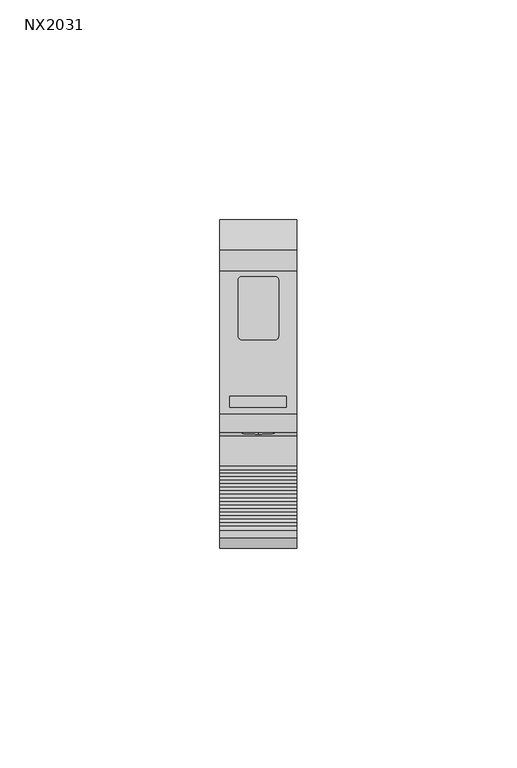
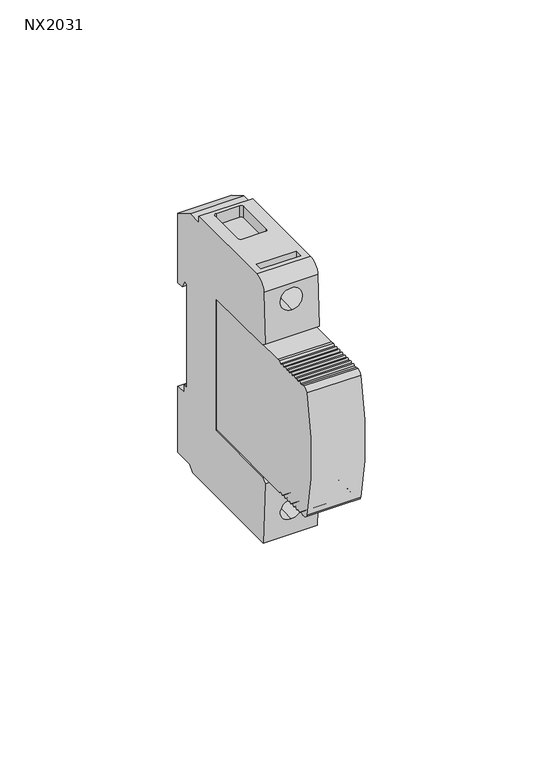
"""IFC4 building model written with IfcOpenShell, lengths in millimetres: proxy geometry, КНС_УЗИП_классII_DKC : NX2031."""

from ifc_helpers import new_model, si_unit, point, frame, frame_2d, origin, place, context, project, spatial, polyline, circle_curve, ellipse_curve, trimmed, segment, composite_curve, outline, extrude, source, transform, mapped, element, save
from ifc_brep_helpers import plane_surface, cylinder_surface, revolved_surface, advanced_brep


def nx2031_2e469d20(model_context):
    return source(origin(), model_context, "Body", "SolidModel", [
        advanced_brep(
        [(52.5, 1.2, 17.438194), (52.5, 2.7207259, 14.938194), (52.5, 5.0, 14.938194), (52.5, 5.0, 38.7044771), (52.5, -1.7972569, 42.6288752), (52.5, -6.7, 42.5860896), (52.5, -6.6806922, 44.688194), (52.5, -39.1559657, 44.688194), (52.5, -43.2612234, 40.8404952), (52.5, -44.1501875, 23.5687496), (52.5, -42.5975423, 22.4685618), (52.5, -16.1999972, 22.2381939), (52.5, -16.1999972, -22.861806), (52.5, -42.5975423, -23.0921739), (52.5, -44.149783, -24.192075), (52.5, -43.0654073, -45.2646007), (52.5, -3.2721098, -45.2646007), (52.5, -1.6937526, -43.2533905), (52.5, 5.0, -43.311806), (52.5, 5.0, -20.561806), (52.5, 1.5, -20.561806), (52.5, 1.5, -18.061806), (52.5, 0.0, -18.061806), (52.5, 0.0, 17.438194), (35.0, 1.2, 17.438194), (35.0, 0.0, 17.438194), (35.0, 0.0, -18.061806), (35.0, 1.5, -18.061806), (35.0, 1.5, -20.561806), (35.0, 5.0, -20.561806), (35.0, 5.0, -43.311806), (35.0, -1.6937526, -43.2533905), (35.0, -3.2721098, -45.2646007), (35.0, -43.0654073, -45.2646007), (35.0, -44.149783, -24.192075), (35.0, -42.5975423, -23.0921739), (35.0, -16.1999972, -22.861806), (35.0, -16.1999972, 22.2381939), (35.0, -42.5975423, 22.4685618), (35.0, -44.1501875, 23.5687496), (35.0, -43.2612234, 40.8404952), (35.0, -39.1559657, 44.688194), (35.0, -6.6806922, 44.688194), (35.0, -6.7, 42.5860896), (35.0, -1.7972569, 42.6288752), (35.0, 5.0, 38.7044771), (35.0, 5.0, 14.938194), (35.0, 2.7207259, 14.938194), (37.251655, -35.102599, 44.688194), (50.147402, -35.102599, 44.688194), (50.1473955, -37.6473987, 44.688194), (37.2596285, -37.6473987, 44.688194), (39.1464467, -8.7059631, 44.688194), (39.9559631, -7.8964466, 44.688194), (47.543988, -7.8964466, 44.688194), (48.3535534, -8.9059631, 44.688194), (48.3535534, -21.4940369, 44.688194), (47.5440369, -22.3035534, 44.688194), (39.9559631, -22.3035534, 44.688194), (39.1464467, -21.2943613, 44.688194), (43.75, -43.7122623, 32.0772292), (43.75, -43.3399564, 39.3107864), (43.75, -43.3425137, -39.8796286), (43.75, -43.7053358, -32.8289577), (50.147402, -35.102599, 40.688194), (37.251655, -35.102599, 40.688194), (37.2596285, -37.6473987, 40.688194), (50.1473955, -37.6473987, 40.688194), (43.75, -32.0563306, 32.6770343), (43.75, -32.241464, 36.2747068), (43.75, -32.4265974, 39.8723793), (43.75, -28.3623348, -39.1087603), (43.75, -28.5437458, -35.5834249), (43.75, -28.7251568, -32.0580894), (39.9559631, -7.8964466, 40.688194), (39.1464467, -8.7059631, 40.688194), (39.1464467, -21.2943613, 40.688194), (39.9559631, -22.3035534, 40.688194), (47.5440369, -22.3035534, 40.688194), (48.3535534, -21.4940369, 40.688194), (48.3535534, -8.9059631, 40.688194), (47.543988, -7.8964466, 40.688194)],
        [
            (0, 1),
            (1, 2),
            (2, 3),
            (3, 4),
            (4, 5),
            (5, 6),
            (6, 7),
            (7, 8, circle_curve(frame((52.5, -39.1559657, 40.574316), z_axis=(1.0, 0.0, 0.0), x_axis=(0.0, -1.0, 0.0)), 4.113878)),
            (8, 9),
            (9, 10),
            (10, 11),
            (11, 12),
            (12, 13),
            (13, 14),
            (14, 15),
            (15, 16),
            (16, 17),
            (17, 18),
            (18, 19),
            (19, 20),
            (20, 21),
            (21, 22),
            (22, 23),
            (23, 0),
            (24, 25),
            (25, 26),
            (26, 27),
            (27, 28),
            (28, 29),
            (29, 30),
            (30, 31),
            (31, 32),
            (32, 33),
            (33, 34),
            (34, 35),
            (35, 36),
            (36, 37),
            (37, 38),
            (38, 39),
            (39, 40),
            (40, 41, circle_curve(frame((35.0, -39.1559657, 40.574316), z_axis=(-1.0, 0.0, 0.0), x_axis=(0.0, -1.0, 0.0)), 4.113878)),
            (41, 42),
            (42, 43),
            (43, 44),
            (44, 45),
            (45, 46),
            (46, 47),
            (47, 24),
            (0, 24),
            (47, 1),
            (46, 2),
            (45, 3),
            (44, 4),
            (43, 5),
            (42, 6),
            (41, 7),
            (48, 49),
            (49, 50),
            (50, 51),
            (51, 48),
            (52, 53, circle_curve(frame((39.9559631, -8.7059631, 44.688194), z_axis=(0.0, 0.0, -1.0), x_axis=(1.0, 0.0, 0.0)), 0.8095165)),
            (53, 54),
            (54, 55, circle_curve(frame((47.543988, -8.7258138, 44.688194), z_axis=(0.0, 0.0, -1.0), x_axis=(1.0, 0.0, 0.0)), 0.8293672)),
            (55, 56),
            (56, 57, circle_curve(frame((47.5440369, -21.4940369, 44.688194), z_axis=(0.0, 0.0, -1.0), x_axis=(1.0, 0.0, 0.0)), 0.8095165)),
            (57, 58),
            (58, 59, circle_curve(frame((40.1802649, -21.2943613, 44.688194), z_axis=(0.0, 0.0, -1.0), x_axis=(1.0, 0.0, 0.0)), 1.0338181)),
            (59, 52),
            (40, 8),
            (39, 9),
            (60, 61, ellipse_curve(frame((43.75, -43.5261093, 35.6940078), z_axis=(0.0, 0.9986780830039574, -0.05140123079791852), x_axis=(0.0, -0.0514012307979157, -0.9986780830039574)), 3.621566, 3.6024328)),
            (61, 60, ellipse_curve(frame((43.75, -43.5261093, 35.6940078), z_axis=(0.0, 0.9986780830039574, -0.05140123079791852), x_axis=(0.0, -0.0514012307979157, -0.9986780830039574)), 3.621566, 3.6024328)),
            (38, 10),
            (37, 11),
            (36, 12),
            (35, 13),
            (34, 14),
            (33, 15),
            (62, 63, circle_curve(frame((43.75, -43.5239247, -36.3542932), z_axis=(0.0, 0.9986785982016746, 0.051391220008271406), x_axis=(0.0, -0.05139122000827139, 0.9986785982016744)), 3.53)),
            (63, 62, circle_curve(frame((43.75, -43.5239247, -36.3542932), z_axis=(0.0, 0.9986785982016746, 0.051391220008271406), x_axis=(0.0, -0.05139122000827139, 0.9986785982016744)), 3.53)),
            (32, 16),
            (31, 17),
            (30, 18),
            (29, 19),
            (28, 20),
            (27, 21),
            (26, 22),
            (25, 23),
            (64, 65),
            (65, 66),
            (66, 67),
            (67, 64),
            (64, 49),
            (48, 65),
            (51, 66),
            (50, 67),
            (68, 69),
            (69, 70),
            (70, 68, circle_curve(frame((43.75, -32.241464, 36.2747068), z_axis=(0.0, -0.9986785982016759, -0.051391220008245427), x_axis=(0.0, -0.05139122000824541, 0.9986785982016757)), 3.6024328)),
            (68, 70, circle_curve(frame((43.75, -32.241464, 36.2747068), z_axis=(0.0, -0.9986785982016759, -0.051391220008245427), x_axis=(0.0, -0.05139122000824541, 0.9986785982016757)), 3.6024328)),
            (70, 61),
            (60, 68),
            (71, 72),
            (72, 73),
            (73, 71, circle_curve(frame((43.75, -28.5437458, -35.5834249), z_axis=(0.0, -0.9986785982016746, -0.051391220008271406), x_axis=(0.0, -0.05139122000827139, 0.9986785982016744)), 3.53)),
            (71, 73, circle_curve(frame((43.75, -28.5437458, -35.5834249), z_axis=(0.0, -0.9986785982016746, -0.051391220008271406), x_axis=(0.0, -0.05139122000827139, 0.9986785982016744)), 3.53)),
            (73, 63),
            (62, 71),
            (74, 75, circle_curve(frame((39.9559631, -8.7059631, 40.688194), z_axis=(0.0, 0.0, 1.0), x_axis=(1.0, 0.0, 0.0)), 0.8095165)),
            (75, 76),
            (76, 77, circle_curve(frame((40.1802649, -21.2943613, 40.688194), z_axis=(0.0, 0.0, 1.0), x_axis=(1.0, 0.0, 0.0)), 1.0338181)),
            (77, 78),
            (78, 79, circle_curve(frame((47.5440369, -21.4940369, 40.688194), z_axis=(0.0, 0.0, 1.0), x_axis=(1.0, 0.0, 0.0)), 0.8095165)),
            (79, 80),
            (80, 81, circle_curve(frame((47.543988, -8.7258138, 40.688194), z_axis=(0.0, 0.0, 1.0), x_axis=(1.0, 0.0, 0.0)), 0.8293672)),
            (81, 74),
            (74, 53),
            (52, 75),
            (59, 76),
            (58, 77),
            (57, 78),
            (56, 79),
            (55, 80),
            (54, 81),
        ],
        [
            plane_surface(frame((52.5, 1.2, 17.438194), z_axis=(1.0, 0.0, 0.0), x_axis=(0.0, 0.5196942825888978, -0.8543523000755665))),
            plane_surface(frame((35.0, 1.2, 17.438194), z_axis=(-1.0, 0.0, 0.0), x_axis=(0.0, -0.5196942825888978, 0.8543523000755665))),
            plane_surface(frame((52.5, 1.2, 17.438194), z_axis=(0.0, -0.8543523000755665, -0.5196942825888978), x_axis=(-1.0, 0.0, 0.0))),
            plane_surface(frame((52.5, 2.7207259, 14.938194), z_axis=(0.0, 0.0, -1.0), x_axis=(-1.0, 0.0, 0.0))),
            plane_surface(frame((52.5, 5.0, 14.938194), z_axis=(0.0, 1.0, 0.0), x_axis=(-1.0, 0.0, 0.0))),
            plane_surface(frame((52.5, 5.0, 38.7044771), z_axis=(0.0, 0.49999999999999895, 0.8660254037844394), x_axis=(-1.0, 0.0, 0.0))),
            plane_surface(frame((52.5, -1.7972569, 42.6288752), z_axis=(0.0, -0.008726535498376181, 0.9999619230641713), x_axis=(-1.0, 0.0, 0.0))),
            plane_surface(frame((52.5, -6.7, 42.5860896), z_axis=(0.0, 0.9999578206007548, -0.009184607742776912), x_axis=(-1.0, 0.0, 0.0))),
            plane_surface(frame((52.5, -6.6806922, 44.688194), z_axis=(0.0, 0.0, 1.0), x_axis=(-1.0, 0.0, 0.0))),
            cylinder_surface(frame((35.0, -39.1559657, 40.574316), z_axis=(1.0, 0.0, 0.0), x_axis=(0.0, -1.0, 0.0)), 4.113878),
            plane_surface(frame((52.5, -43.2612234, 40.8404952), z_axis=(0.0, -0.9986780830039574, 0.05140123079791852), x_axis=(-1.0, 0.0, 0.0))),
            plane_surface(frame((52.5, -44.1501875, 23.5687496), z_axis=(0.0, -0.5781564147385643, -0.8159259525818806), x_axis=(-1.0, 0.0, 0.0))),
            plane_surface(frame((52.5, -42.5975423, 22.4685618), z_axis=(0.0, -0.00872653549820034, -0.9999619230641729), x_axis=(-1.0, 0.0, 0.0))),
            plane_surface(frame((52.5, -16.1999972, 22.2381939), z_axis=(0.0, -1.0, 0.0), x_axis=(-1.0, 0.0, 0.0))),
            plane_surface(frame((52.5, -16.1999972, -22.861806), z_axis=(0.0, -0.008726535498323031, 0.9999619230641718), x_axis=(-1.0, 0.0, 0.0))),
            plane_surface(frame((52.5, -42.5975423, -23.0921739), z_axis=(0.0, -0.5781564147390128, 0.8159259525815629), x_axis=(-1.0, 0.0, 0.0))),
            plane_surface(frame((52.5, -44.149783, -24.192075), z_axis=(0.0, -0.9986785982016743, -0.05139122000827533), x_axis=(-1.0, 0.0, 0.0))),
            plane_surface(frame((52.5, -43.0654073, -45.2646007), z_axis=(0.0, 0.0, -1.0), x_axis=(-1.0, 0.0, 0.0))),
            plane_surface(frame((52.5, -3.2721098, -45.2646007), z_axis=(0.0, 0.7866753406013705, -0.6173669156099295), x_axis=(-1.0, 0.0, 0.0))),
            plane_surface(frame((52.5, -1.6937526, -43.2533905), z_axis=(0.0, -0.008726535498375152, -0.9999619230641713), x_axis=(-1.0, 0.0, 0.0))),
            plane_surface(frame((52.5, 5.0, -43.311806), z_axis=(0.0, 1.0, 0.0), x_axis=(-1.0, 0.0, 0.0))),
            plane_surface(frame((52.5, 5.0, -20.561806), z_axis=(0.0, 0.0, 1.0), x_axis=(-1.0, 0.0, 0.0))),
            plane_surface(frame((52.5, 1.5, -20.561806), z_axis=(0.0, 1.0, 0.0), x_axis=(-1.0, 0.0, 0.0))),
            plane_surface(frame((52.5, 1.5, -18.061806), z_axis=(0.0, 0.0, 1.0), x_axis=(-1.0, 0.0, 0.0))),
            plane_surface(frame((52.5, 0.0, -18.061806), z_axis=(0.0, 1.0, 0.0), x_axis=(-1.0, 0.0, 0.0))),
            plane_surface(frame((52.5, 0.0, 17.438194), z_axis=(0.0, 0.0, -1.0), x_axis=(-1.0, 0.0, 0.0))),
            plane_surface(frame((37.5525837, -35.102599, 40.688194), z_axis=(0.0, 0.0, 1.0), x_axis=(1.0, 0.0, 0.0))),
            plane_surface(frame((50.147402, -35.102599, 51.9501742), z_axis=(0.0, -1.0, 0.0), x_axis=(0.0, 0.0, -1.0))),
            plane_surface(frame((37.251655, -35.102599, 51.9501742), z_axis=(0.9999950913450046, 0.003133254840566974, 0.0), x_axis=(0.0, 0.0, -1.0))),
            plane_surface(frame((37.2596285, -37.6473987, 51.9501742), z_axis=(0.0, 1.0, 0.0), x_axis=(0.0, 0.0, -1.0))),
            plane_surface(frame((50.1473955, -37.6473987, 51.9501742), z_axis=(-0.9999999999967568, 2.546850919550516e-06, 0.0), x_axis=(0.0, 0.0, -1.0))),
            plane_surface(frame((43.75, -32.241464, 36.2747068), z_axis=(0.0, -0.9986785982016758, -0.05139122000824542), x_axis=(0.0, -0.05139122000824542, 0.9986785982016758))),
            revolved_surface(polyline([(43.75, -44.082529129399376, 39.27257420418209), (43.75, -32.42659740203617, 39.872379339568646)]), (43.75, -32.241464, 36.2747068), (0.0, -0.9986785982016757, -0.05139122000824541)),
            plane_surface(frame((43.75, -28.5437458, -35.5834249), z_axis=(0.0, -0.9986785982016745, -0.0513912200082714), x_axis=(0.0, -0.0513912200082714, 0.9986785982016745))),
            revolved_surface(polyline([(43.75, -43.70533579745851, -32.828957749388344), (43.75, -28.725156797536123, -32.058089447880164)]), (43.75, -28.5437458, -35.5834249), (0.0, -0.9986785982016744, -0.05139122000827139)),
            plane_surface(frame((40.7654796, -8.7059631, 40.688194), z_axis=(0.0, 0.0, 1.0), x_axis=(0.0, -1.0, 0.0))),
            revolved_surface(polyline([(40.7654796, -8.7059631, 44.688194), (40.7654796, -8.7059631, 40.688194)]), (39.9559631, -8.7059631, 40.688194), (0.0, 0.0, 1.0)),
            plane_surface(frame((39.1464467, -8.7059631, 44.688194), z_axis=(1.0, 0.0, 0.0), x_axis=(0.0, 0.0, -1.0))),
            revolved_surface(polyline([(41.214082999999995, -21.2943613, 44.688194), (41.214082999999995, -21.2943613, 40.688194)]), (40.1802649, -21.2943613, 40.688194), (0.0, 0.0, 1.0)),
            plane_surface(frame((39.9559631, -22.3035534, 44.688194), z_axis=(0.0, 1.0, 0.0), x_axis=(0.0, 0.0, -1.0))),
            revolved_surface(polyline([(48.3535534, -21.4940369, 44.688194), (48.3535534, -21.4940369, 40.688194)]), (47.5440369, -21.4940369, 40.688194), (0.0, 0.0, 1.0)),
            plane_surface(frame((48.3535534, -21.4940369, 44.688194), z_axis=(-1.0, 0.0, 0.0), x_axis=(0.0, 0.0, -1.0))),
            revolved_surface(polyline([(48.3733552, -8.7258138, 44.688194), (48.3733552, -8.7258138, 40.688194)]), (47.543988, -8.7258138, 40.688194), (0.0, 0.0, 1.0)),
            plane_surface(frame((47.543988, -7.8964466, 44.688194), z_axis=(1.8937241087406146e-10, -1.0, 0.0), x_axis=(0.0, 0.0, -1.0))),
        ],
        [
            (0, [[1, 2, 3, 4, 5, 6, 7, 8, 9, 10, 11, 12, 13, 14, 15, 16, 17, 18, 19, 20, 21, 22, 23, 24]]),
            (1, [[25, 26, 27, 28, 29, 30, 31, 32, 33, 34, 35, 36, 37, 38, 39, 40, 41, 42, 43, 44, 45, 46, 47, 48]]),
            (2, [[-1, 49, -48, 50]]),
            (3, [[-2, -50, -47, 51]]),
            (4, [[-3, -51, -46, 52]]),
            (5, [[-4, -52, -45, 53]]),
            (6, [[-5, -53, -44, 54]]),
            (7, [[-6, -54, -43, 55]]),
            (8, [[-7, -55, -42, 56], [57, 58, 59, 60], [61, 62, 63, 64, 65, 66, 67, 68]]),
            (9, [[-8, -56, -41, 69]]),
            (10, [[-9, -69, -40, 70], [71, 72]]),
            (11, [[-10, -70, -39, 73]]),
            (12, [[-11, -73, -38, 74]]),
            (13, [[-12, -74, -37, 75]]),
            (14, [[-13, -75, -36, 76]]),
            (15, [[-14, -76, -35, 77]]),
            (16, [[-15, -77, -34, 78], [79, 80]]),
            (17, [[-16, -78, -33, 81]]),
            (18, [[-17, -81, -32, 82]]),
            (19, [[-18, -82, -31, 83]]),
            (20, [[-19, -83, -30, 84]]),
            (21, [[-20, -84, -29, 85]]),
            (22, [[-21, -85, -28, 86]]),
            (23, [[-22, -86, -27, 87]]),
            (24, [[-23, -87, -26, 88]]),
            (25, [[-24, -88, -25, -49]]),
            (26, [[89, 90, 91, 92]]),
            (27, [[-89, 93, -57, 94]]),
            (28, [[-90, -94, -60, 95]]),
            (29, [[-91, -95, -59, 96]]),
            (30, [[-92, -96, -58, -93]]),
            (31, [[97, 98, 99]]),
            (31, [[-97, 100, -98]]),
            (32, [[-99, 101, -71, 102]]),
            (32, [[-100, -102, -72, -101]]),
            (33, [[103, 104, 105]]),
            (33, [[-103, 106, -104]]),
            (34, [[-105, 107, -79, 108]]),
            (34, [[-106, -108, -80, -107]]),
            (35, [[109, 110, 111, 112, 113, 114, 115, 116]]),
            (36, [[-109, 117, -61, 118]]),
            (37, [[-110, -118, -68, 119]]),
            (38, [[-111, -119, -67, 120]]),
            (39, [[-112, -120, -66, 121]]),
            (40, [[-113, -121, -65, 122]]),
            (41, [[-114, -122, -64, 123]]),
            (42, [[-115, -123, -63, 124]]),
            (43, [[-116, -124, -62, -117]]),
        ],
    ),
        extrude(outline(composite_curve([segment(polyline([(-20.9549972, 22.238194), (-16.1999972, 22.238194), (-16.1999972, -22.238194), (-20.9549972, -22.238194), (-50.9549972, -22.5), (-51.8409232, -22.5)]), True, "CONTINUOUS"), segment(trimmed(circle_curve(frame_2d((-51.8159676, -21.704458)), 0.7959333), [point((-51.8409232, -22.5))], [point((-52.5549972, -22.0))], False, "CARTESIAN"), True, "CONTINUOUS"), segment(polyline([(-52.5549972, -22.0), (-53.3549972, -22.0)]), True, "CONTINUOUS"), segment(trimmed(circle_curve(frame_2d((-53.7549972, -22.0)), 0.4), [point((-53.3549972, -22.0))], [point((-54.1549972, -22.0))], False, "CARTESIAN"), True, "CONTINUOUS"), segment(polyline([(-54.1549972, -22.0), (-54.9549972, -22.0)]), True, "CONTINUOUS"), segment(trimmed(circle_curve(frame_2d((-55.3549972, -22.0)), 0.4), [point((-54.9549972, -22.0))], [point((-55.7549972, -22.0))], False, "CARTESIAN"), True, "CONTINUOUS"), segment(polyline([(-55.7549972, -22.0), (-56.5549972, -22.0)]), True, "CONTINUOUS"), segment(trimmed(circle_curve(frame_2d((-56.9549972, -22.0)), 0.4), [point((-56.5549972, -22.0))], [point((-57.3549972, -22.0))], False, "CARTESIAN"), True, "CONTINUOUS"), segment(polyline([(-57.3549972, -22.0), (-58.1549972, -22.0)]), True, "CONTINUOUS"), segment(trimmed(circle_curve(frame_2d((-58.5549972, -22.0)), 0.4), [point((-58.1549972, -22.0))], [point((-58.9549972, -22.0))], False, "CARTESIAN"), True, "CONTINUOUS"), segment(polyline([(-58.9549972, -22.0), (-59.7549972, -22.0)]), True, "CONTINUOUS"), segment(trimmed(circle_curve(frame_2d((-60.1549972, -22.0)), 0.4), [point((-59.7549972, -22.0))], [point((-60.5549972, -22.0))], False, "CARTESIAN"), True, "CONTINUOUS"), segment(polyline([(-60.5549972, -22.0), (-61.3549972, -22.0)]), True, "CONTINUOUS"), segment(trimmed(circle_curve(frame_2d((-61.7549972, -22.0)), 0.4), [point((-61.3549972, -22.0))], [point((-62.1549972, -22.0))], False, "CARTESIAN"), True, "CONTINUOUS"), segment(polyline([(-62.1549972, -22.0), (-62.9549972, -22.0)]), True, "CONTINUOUS"), segment(trimmed(circle_curve(frame_2d((-63.3549972, -22.0)), 0.4), [point((-62.9549972, -22.0))], [point((-63.7549972, -22.0))], False, "CARTESIAN"), True, "CONTINUOUS"), segment(polyline([(-63.7549972, -22.0), (-64.5549972, -22.0)]), True, "CONTINUOUS"), segment(trimmed(circle_curve(frame_2d((-65.6169646, -20.2703757)), 2.0296243), [point((-64.5549972, -22.0))], [point((-65.6169646, -22.3))], False, "CARTESIAN"), True, "CONTINUOUS"), segment(trimmed(circle_curve(frame_2d((-65.6408544, -20.5391615)), 1.7610005), [point((-65.6169646, -22.3))], [point((-67.3551679, -20.9419667))], False, "CARTESIAN"), True, "CONTINUOUS"), segment(trimmed(circle_curve(frame_2d((15.9165985, 0.0)), 85.8647369), [point((-67.3551679, -20.9419667))], [point((-67.3551679, 20.9419667))], False, "CARTESIAN"), True, "CONTINUOUS"), segment(trimmed(circle_curve(frame_2d((-65.6408544, 20.5391615)), 1.7610005), [point((-67.3551679, 20.9419667))], [point((-65.6169646, 22.3))], False, "CARTESIAN"), True, "CONTINUOUS"), segment(trimmed(circle_curve(frame_2d((-65.6169646, 20.2703757)), 2.0296243), [point((-65.6169646, 22.3))], [point((-64.5549972, 22.0))], False, "CARTESIAN"), True, "CONTINUOUS"), segment(polyline([(-64.5549972, 22.0), (-63.7549972, 22.0)]), True, "CONTINUOUS"), segment(trimmed(circle_curve(frame_2d((-63.3549972, 22.0)), 0.4), [point((-63.7549972, 22.0))], [point((-62.9549972, 22.0))], False, "CARTESIAN"), True, "CONTINUOUS"), segment(polyline([(-62.9549972, 22.0), (-62.1549972, 22.0)]), True, "CONTINUOUS"), segment(trimmed(circle_curve(frame_2d((-61.7549972, 22.0)), 0.4), [point((-62.1549972, 22.0))], [point((-61.3549972, 22.0))], False, "CARTESIAN"), True, "CONTINUOUS"), segment(polyline([(-61.3549972, 22.0), (-60.5549972, 22.0)]), True, "CONTINUOUS"), segment(trimmed(circle_curve(frame_2d((-60.1549972, 22.0)), 0.4), [point((-60.5549972, 22.0))], [point((-59.7549972, 22.0))], False, "CARTESIAN"), True, "CONTINUOUS"), segment(polyline([(-59.7549972, 22.0), (-58.9549972, 22.0)]), True, "CONTINUOUS"), segment(trimmed(circle_curve(frame_2d((-58.5549972, 22.0)), 0.4), [point((-58.9549972, 22.0))], [point((-58.1549972, 22.0))], False, "CARTESIAN"), True, "CONTINUOUS"), segment(polyline([(-58.1549972, 22.0), (-57.3549972, 22.0)]), True, "CONTINUOUS"), segment(trimmed(circle_curve(frame_2d((-56.9549972, 22.0)), 0.4), [point((-57.3549972, 22.0))], [point((-56.5549972, 22.0))], False, "CARTESIAN"), True, "CONTINUOUS"), segment(polyline([(-56.5549972, 22.0), (-55.7549972, 22.0)]), True, "CONTINUOUS"), segment(trimmed(circle_curve(frame_2d((-55.3549972, 22.0)), 0.4), [point((-55.7549972, 22.0))], [point((-54.9549972, 22.0))], False, "CARTESIAN"), True, "CONTINUOUS"), segment(polyline([(-54.9549972, 22.0), (-54.1549972, 22.0)]), True, "CONTINUOUS"), segment(trimmed(circle_curve(frame_2d((-53.7549972, 22.0)), 0.4), [point((-54.1549972, 22.0))], [point((-53.3549972, 22.0))], False, "CARTESIAN"), True, "CONTINUOUS"), segment(polyline([(-53.3549972, 22.0), (-52.5549972, 22.0)]), True, "CONTINUOUS"), segment(trimmed(circle_curve(frame_2d((-51.8159676, 21.704458)), 0.7959333), [point((-52.5549972, 22.0))], [point((-51.8409232, 22.5))], False, "CARTESIAN"), True, "CONTINUOUS"), segment(polyline([(-51.8409232, 22.5), (-50.9549972, 22.5), (-20.9549972, 22.238194)]), True, "CONTINUOUS")], self_intersect=False)), frame((35.0, 0.0, 0.0), z_axis=(1.0, 0.0, 0.0), x_axis=(0.0, 1.0, 0.0)), (0.0, 0.0, 1.0), 17.5),
    ])


if __name__ == "__main__":
    model = new_model("IFC4")
    model_context = context("Model", 3, world=origin())
    ifc_project = project(units=[si_unit("LENGTHUNIT", "METRE", prefix="MILLI")], contexts=[model_context])
    site = spatial("IfcSite", under=ifc_project)
    building = spatial("IfcBuilding", under=site)
    placement = place(None, origin())
    nx2031_shape = nx2031_2e469d20(model_context)
    element("IfcBuildingElementProxy", 1, Name="КНС_УЗИП_классII_DKC : NX2031", ObjectType="КНС_УЗИП_классII_DKC : NX2031", at=placement, inside=building, context=model_context, shape_type="MappedRepresentation", body=[
        mapped(nx2031_shape, transform((0.0, 0.0, 0.0), x_axis=(1.0, 0.0, 0.0), y_axis=(0.0, 1.0, 0.0), z_axis=(0.0, 0.0, 1.0))),
    ])
    save(model, "model.ifc")
